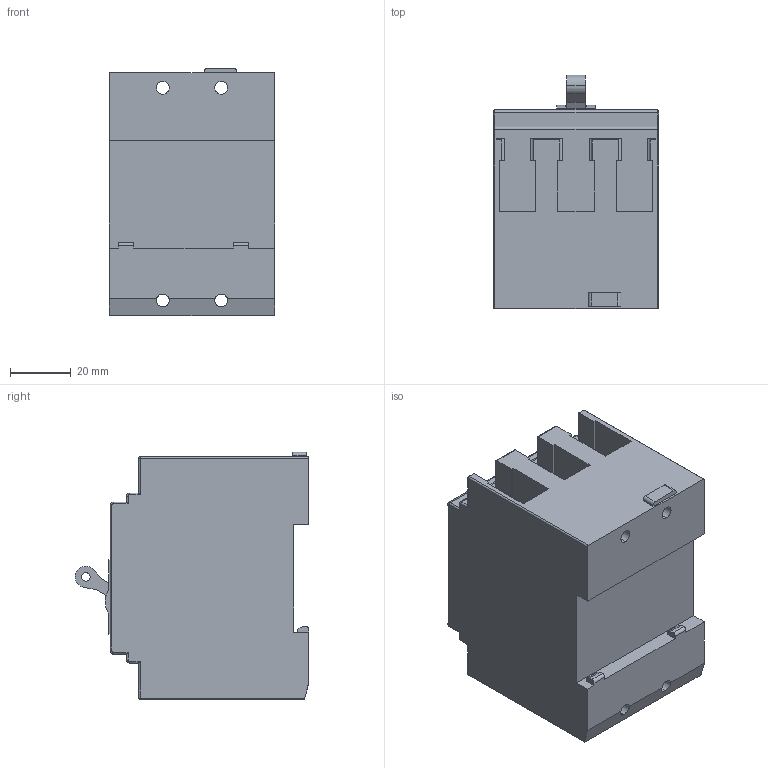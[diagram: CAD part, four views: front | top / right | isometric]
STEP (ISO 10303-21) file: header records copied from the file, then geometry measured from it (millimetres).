
FILE_DESCRIPTION (( 'STEP AP203' ), '1' );
FILE_NAME ('CN Type 3P.STEP', '2026-01-26T02:04:30', ( '' ), ( '' ), 'SwSTEP 2.0', 'SolidWorks 2023', '' );
FILE_SCHEMA (( 'CONFIG_CONTROL_DESIGN' ));
Length unit declared in the file: millimetre
Products named in the file (1): CN Type 3P
Bounding box: 54.4 x 76.9 x 81.4 mm (x, y, z)
Volume: 237286.7 mm3; surface area: 33209 mm2
Topology: 1 solids, 1 shells, 201 faces, 532 edges, 340 vertices
Faces by surface type: plane 105, cylinder 84, torus 8, sphere 4
Entity records: 6269 total; most frequent: CARTESIAN_POINT 1112, DIRECTION 1076, ORIENTED_EDGE 1056, EDGE_CURVE 528, AXIS2_PLACEMENT_3D 360, LINE 356, VECTOR 356, VERTEX_POINT 340
